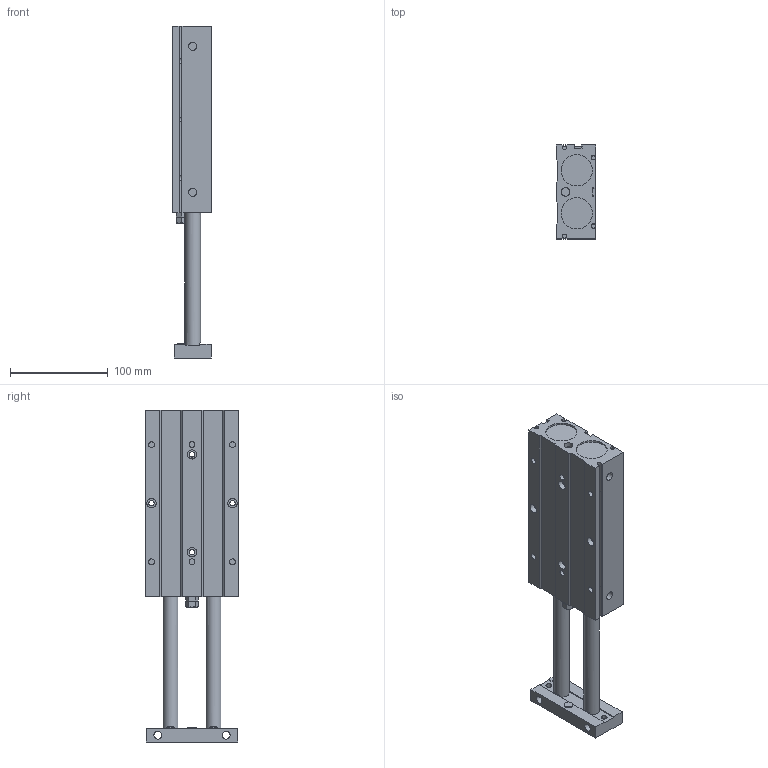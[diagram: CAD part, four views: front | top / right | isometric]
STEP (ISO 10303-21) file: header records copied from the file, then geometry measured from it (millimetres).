
FILE_DESCRIPTION((''),'2;1');
FILE_NAME('I:\3D電子目錄\氣缸\TD\TD32\TD32\TD32x125.stp','2007-08-06T10:18:44',('Administrator'),(''),'Autodesk Inventor 2008','Autodesk Inventor 2008','');
FILE_SCHEMA(('AUTOMOTIVE_DESIGN { 1 0 10303 214 1 1 1 1 }'));
Length unit declared in the file: millimetre
Products named in the file (1): TD32X125
Bounding box: 40.5 x 96 x 340 mm (x, y, z)
Volume: 790655.1 mm3; surface area: 104576.4 mm2
Topology: 1 solids, 3 shells, 186 faces, 458 edges, 304 vertices
Faces by surface type: plane 131, cylinder 42, cone 7, bspline 4, torus 2
Full cylindrical faces by diameter (mm): 5.5 x4, 6 x8, 8 x2, 8.5 x2, 9 x2, 9.5 x8, 12 x2, 13 x2, 14 x2, 16 x2, 32 x4
Entity records: 6063 total; most frequent: CARTESIAN_POINT 1776, DIRECTION 851, ORIENTED_EDGE 802, EDGE_CURVE 401, EDGE_LOOP 297, AXIS2_PLACEMENT_3D 295, VERTEX_POINT 294, VECTOR 261
